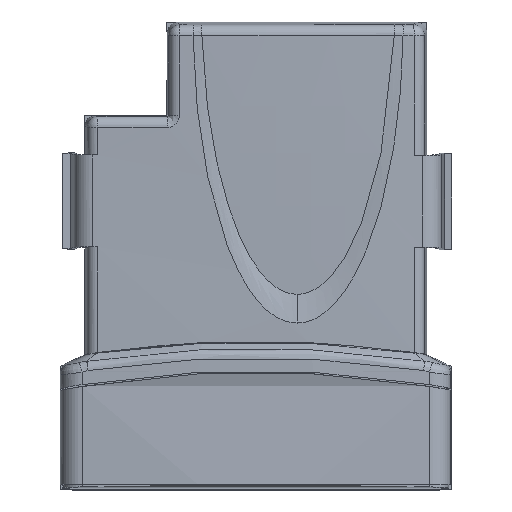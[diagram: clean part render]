
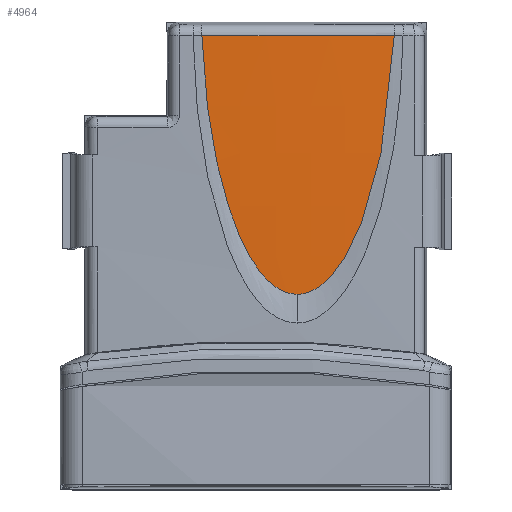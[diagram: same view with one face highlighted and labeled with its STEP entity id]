
A CAD part, top view. The second image highlights one B-rep face of the part: STEP entity #4964.
In plain terms, the highlighted toroidal (fillet/blend) face has major radius 1615 mm and minor radius 705.359 mm.
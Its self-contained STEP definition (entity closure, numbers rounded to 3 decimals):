
#2581=CARTESIAN_POINT('',(-14.409,-55.662,
133.751));
#2618=CARTESIAN_POINT('',(-3.381,5.616,
-566.661));
#2619=DIRECTION('',(0.,0.996,0.087));
#2620=DIRECTION('',(-0.016,-0.087,0.996));
#2621=AXIS2_PLACEMENT_3D('',#2618,#2619,#2620);
#2623=CARTESIAN_POINT('',(24.949,-55.62,133.268));
#2624=CARTESIAN_POINT('',(24.852,-58.026,133.255));
#2625=CARTESIAN_POINT('',(24.593,-62.604,133.225));
#2626=CARTESIAN_POINT('',(23.982,-68.737,133.178));
#2627=CARTESIAN_POINT('',(23.227,-74.228,133.129));
#2628=CARTESIAN_POINT('',(22.357,-79.137,133.082));
#2629=CARTESIAN_POINT('',(21.399,-83.529,133.036));
#2630=CARTESIAN_POINT('',(20.362,-87.501,132.991));
#2631=CARTESIAN_POINT('',(19.251,-91.083,132.95));
#2632=CARTESIAN_POINT('',(18.085,-94.292,132.912));
#2633=CARTESIAN_POINT('',(16.864,-97.157,132.878));
#2634=CARTESIAN_POINT('',(15.589,-99.702,132.848));
#2635=CARTESIAN_POINT('',(14.255,-101.945,132.823));
#2636=CARTESIAN_POINT('',(12.853,-103.901,132.803));
#2637=CARTESIAN_POINT('',(11.36,-105.573,132.788));
#2638=CARTESIAN_POINT('',(9.79,-106.911,132.781));
#2639=CARTESIAN_POINT('',(8.166,-107.876,132.781));
#2640=CARTESIAN_POINT('',(6.543,-108.421,132.789));
#2641=CARTESIAN_POINT('',(5.545,-108.534,132.799));
#2642=CARTESIAN_POINT('',(5.06,-108.526,132.805));
#2644=CARTESIAN_POINT('',(5.06,-108.526,132.805));
#2645=CARTESIAN_POINT('',(4.585,-108.526,132.81));
#2646=CARTESIAN_POINT('',(3.605,-108.425,132.824));
#2647=CARTESIAN_POINT('',(2.006,-107.865,132.855));
#2648=CARTESIAN_POINT('',(0.407,-106.899,
132.894));
#2649=CARTESIAN_POINT('',(-1.129,-105.55,
132.94));
#2650=CARTESIAN_POINT('',(-2.589,-103.873,
132.99));
#2651=CARTESIAN_POINT('',(-3.957,-101.918,
133.044));
#2652=CARTESIAN_POINT('',(-5.259,-99.677,
133.102));
#2653=CARTESIAN_POINT('',(-6.503,-97.137,
133.163));
#2654=CARTESIAN_POINT('',(-7.694,-94.279,
133.226));
#2655=CARTESIAN_POINT('',(-8.833,-91.078,
133.292));
#2656=CARTESIAN_POINT('',(-9.916,-87.504,
133.361));
#2657=CARTESIAN_POINT('',(-10.93,-83.543,
133.43));
#2658=CARTESIAN_POINT('',(-11.867,-79.162,
133.5));
#2659=CARTESIAN_POINT('',(-12.717,-74.264,
133.569));
#2660=CARTESIAN_POINT('',(-13.459,-68.782,
133.636));
#2661=CARTESIAN_POINT('',(-14.054,-62.651,
133.699));
#2662=CARTESIAN_POINT('',(-14.32,-58.071,
133.735));
#2663=CARTESIAN_POINT('',(-14.409,-55.662,
133.751));
#2975=VERTEX_POINT('',#2581);
#2977=VERTEX_POINT('',#2644);
#2978=VERTEX_POINT('',#2623);
#4952=CARTESIAN_POINT('',(-3.381,-39.016,
-2186.466));
#4953=DIRECTION('',(1.,0.,0.));
#4954=DIRECTION('',(0.,-0.007,1.));
#4955=AXIS2_PLACEMENT_3D('',#4952,#4953,#4954);
#4956=TOROIDAL_SURFACE('',#4955,1615.004,705.358);
#4958=ORIENTED_EDGE('',*,*,#4957,.T.);
#4960=ORIENTED_EDGE('',*,*,#4959,.T.);
#4961=ORIENTED_EDGE('',*,*,#4944,.T.);
#4962=EDGE_LOOP('',(#4958,#4960,#4961));
#4963=FACE_OUTER_BOUND('',#4962,.F.);
#4964=ADVANCED_FACE('',(#4963),#4956,.T.);
#2622=CIRCLE('',#2621,703.173);
#2643=B_SPLINE_CURVE_WITH_KNOTS('',3,(#2623,#2624,#2625,#2626,#2627,#2628,#2629,
#2630,#2631,#2632,#2633,#2634,#2635,#2636,#2637,#2638,#2639,#2640,#2641,#2642),
.UNSPECIFIED.,.F.,.F.,(4,1,1,1,1,1,1,1,1,1,1,1,1,1,1,1,1,4),(0.,
0.059,0.118,0.176,0.235,
0.294,0.353,0.412,0.471,
0.529,0.588,0.647,0.706,
0.765,0.824,0.882,0.941,1.),
.UNSPECIFIED.);
#2664=B_SPLINE_CURVE_WITH_KNOTS('',3,(#2644,#2645,#2646,#2647,#2648,#2649,#2650,
#2651,#2652,#2653,#2654,#2655,#2656,#2657,#2658,#2659,#2660,#2661,#2662,#2663),
.UNSPECIFIED.,.F.,.F.,(4,1,1,1,1,1,1,1,1,1,1,1,1,1,1,1,1,4),(0.,
0.059,0.118,0.176,0.235,
0.294,0.353,0.412,0.471,
0.529,0.588,0.647,0.706,
0.765,0.824,0.882,0.941,1.),
.UNSPECIFIED.);
#4944=EDGE_CURVE('',#2977,#2975,#2664,.T.);
#4957=EDGE_CURVE('',#2975,#2978,#2622,.T.);
#4959=EDGE_CURVE('',#2978,#2977,#2643,.T.);
